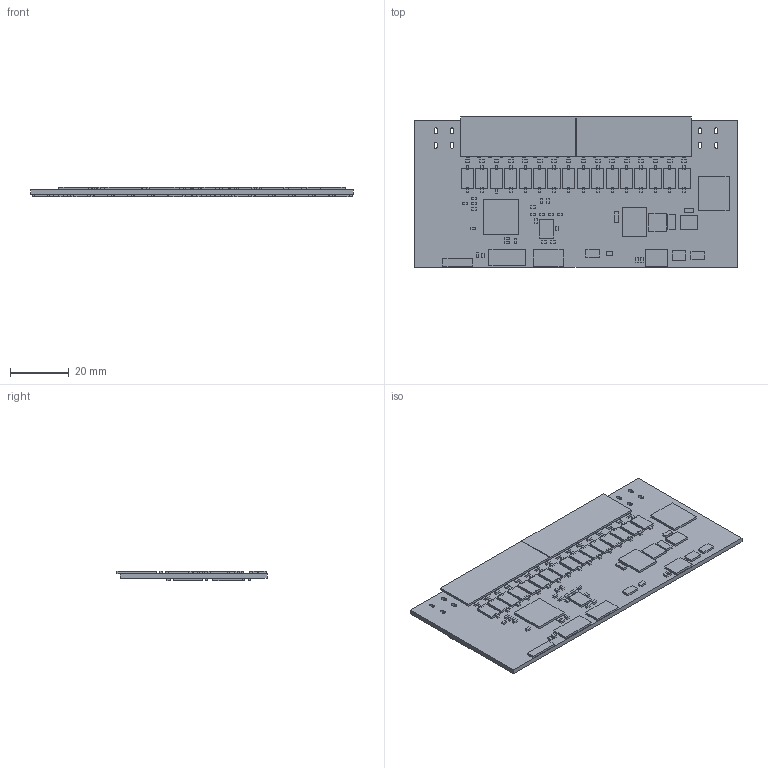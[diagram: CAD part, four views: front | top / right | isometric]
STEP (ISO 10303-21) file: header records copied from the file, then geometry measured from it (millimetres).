
FILE_DESCRIPTION(('Designed by EasyEDA Pro'),'2;1');
FILE_NAME('Open CASCADE Shape Model','2026-09-11T20:01:35',('Author'),( 'Open CASCADE'),'Open CASCADE STEP processor 7.8','Open CASCADE 7.8' ,'Unknown');
FILE_SCHEMA(('AUTOMOTIVE_DESIGN { 1 0 10303 214 1 1 1 1 }'));
Length unit declared in the file: millimetre
Products named in the file (235): EasyEDA PCB Model~jAHL; Board~jAHL; TopCopper~jAHL; BottomCopper~jAHL; TopSilkscreen~jAHL; BottomSilkscreen~jAHL; TopFpcStiffener~jAHL; BottomFpcStiffener~jAHL; CN2~CONN-TH_20P-P3.81_KEFA_KF2EDGKRH-3.81-2X10P~CONN-TH_20P-P3.81_KEFA_KF2EDGKRH-3.81-2X10P~jAHL; CONN-TH_20P-P3.81_KEFA_KF2EDGKRH-3.81-2X10P~CONN-TH_20P-P3.81_KEFA_KF2EDGKRH-3.81-2X10P~jAHL; CN3~CONN-TH_20P-P3.81_KEFA_KF2EDGKRH-3.81-2X10P~CONN-TH_20P-P3.81_KEFA_KF2EDGKRH-3.81-2X10P~jAHL; U1~CONN-TH_4P-P2.50_4PIN~CONN-TH_4P-P2.50_4PIN~jAHL; CONN-TH_4P-P2.50_4PIN~CONN-TH_4P-P2.50_4PIN~jAHL; H1~HDR-TH_4P-P2.54-V-M~HDR-TH_4P-P2.54-M-LI-1X4P~jAHL; HDR-TH_4P-P2.54-V-M~HDR-TH_4P-P2.54-M-LI-1X4P~jAHL; U14~OPTO-SMD-4_L4.4-W4.1-P2.54-LS7.0-TL~OPTO-SMD-4P_L4.1-W4.4-H2.0-LS7.0-P2.54~jAHL; OPTO-SMD-4_L4.4-W4.1-P2.54-LS7.0-TL~OPTO-SMD-4P_L4.1-W4.4-H2.0-LS7.0-P2.54~jAHL; U15~OPTO-SMD-4_L4.4-W4.1-P2.54-LS7.0-TL~OPTO-SMD-4P_L4.1-W4.4-H2.0-LS7.0-P2.54~jAHL; U17~OPTO-SMD-4_L4.4-W4.1-P2.54-LS7.0-TL~OPTO-SMD-4P_L4.1-W4.4-H2.0-LS7.0-P2.54~jAHL; U19~OPTO-SMD-4_L4.4-W4.1-P2.54-LS7.0-TL~OPTO-SMD-4P_L4.1-W4.4-H2.0-LS7.0-P2.54~jAHL; U21~OPTO-SMD-4_L4.4-W4.1-P2.54-LS7.0-TL~OPTO-SMD-4P_L4.1-W4.4-H2.0-LS7.0-P2.54~jAHL; U37~OPTO-SMD-4_L4.4-W4.1-P2.54-LS7.0-TL~OPTO-SMD-4P_L4.1-W4.4-H2.0-LS7.0-P2.54~jAHL; U38~OPTO-SMD-4_L4.4-W4.1-P2.54-LS7.0-TL~OPTO-SMD-4P_L4.1-W4.4-H2.0-LS7.0-P2.54~jAHL; U39~OPTO-SMD-4_L4.4-W4.1-P2.54-LS7.0-TL~OPTO-SMD-4P_L4.1-W4.4-H2.0-LS7.0-P2.54~jAHL; U40~OPTO-SMD-4_L4.4-W4.1-P2.54-LS7.0-TL~OPTO-SMD-4P_L4.1-W4.4-H2.0-LS7.0-P2.54~jAHL; U41~OPTO-SMD-4_L4.4-W4.1-P2.54-LS7.0-TL~OPTO-SMD-4P_L4.1-W4.4-H2.0-LS7.0-P2.54~jAHL; U42~OPTO-SMD-4_L4.4-W4.1-P2.54-LS7.0-TL~OPTO-SMD-4P_L4.1-W4.4-H2.0-LS7.0-P2.54~jAHL; U43~OPTO-SMD-4_L4.4-W4.1-P2.54-LS7.0-TL~OPTO-SMD-4P_L4.1-W4.4-H2.0-LS7.0-P2.54~jAHL; U44~OPTO-SMD-4_L4.4-W4.1-P2.54-LS7.0-TL~OPTO-SMD-4P_L4.1-W4.4-H2.0-LS7.0-P2.54~jAHL; U16~OPTO-SMD-4_L4.4-W4.1-P2.54-LS7.0-TL~OPTO-SMD-4P_L4.1-W4.4-H2.0-LS7.0-P2.54~jAHL; U18~OPTO-SMD-4_L4.4-W4.1-P2.54-LS7.0-TL~OPTO-SMD-4P_L4.1-W4.4-H2.0-LS7.0-P2.54~jAHL; U20~OPTO-SMD-4_L4.4-W4.1-P2.54-LS7.0-TL~OPTO-SMD-4P_L4.1-W4.4-H2.0-LS7.0-P2.54~jAHL; R35~R0603~R0603~jAHL; R0603~R0603~jAHL; R36~R0603~R0603~jAHL; R59~R0603~R0603~jAHL; R60~R0603~R0603~jAHL; R61~R0603~R0603~jAHL; R62~R0603~R0603~jAHL; R38~R0603~R0603~jAHL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
Assembly tree (411 placements, depth 3):
  EasyEDA PCB Model~jAHL
    Board~jAHL
    TopCopper~jAHL
    BottomCopper~jAHL
    TopSilkscreen~jAHL
    BottomSilkscreen~jAHL
    TopFpcStiffener~jAHL
    BottomFpcStiffener~jAHL
    CN2~CONN-TH_20P-P3.81_KEFA_KF2EDGKRH-3.81-2X10P~CONN-TH_20P-P3.81_KEFA_KF2EDGKRH-3.81-2X10P~jAHL
      CONN-TH_20P-P3.81_KEFA_KF2EDGKRH-3.81-2X10P~CONN-TH_20P-P3.81_KEFA_KF2EDGKRH-3.81-2X10P~jAHL
    CN3~CONN-TH_20P-P3.81_KEFA_KF2EDGKRH-3.81-2X10P~CONN-TH_20P-P3.81_KEFA_KF2EDGKRH-3.81-2X10P~jAHL
      CONN-TH_20P-P3.81_KEFA_KF2EDGKRH-3.81-2X10P~CONN-TH_20P-P3.81_KEFA_KF2EDGKRH-3.81-2X10P~jAHL
    U1~CONN-TH_4P-P2.50_4PIN~CONN-TH_4P-P2.50_4PIN~jAHL
      CONN-TH_4P-P2.50_4PIN~CONN-TH_4P-P2.50_4PIN~jAHL
    H1~HDR-TH_4P-P2.54-V-M~HDR-TH_4P-P2.54-M-LI-1X4P~jAHL
      HDR-TH_4P-P2.54-V-M~HDR-TH_4P-P2.54-M-LI-1X4P~jAHL
    U14~OPTO-SMD-4_L4.4-W4.1-P2.54-LS7.0-TL~OPTO-SMD-4P_L4.1-W4.4-H2.0-LS7.0-P2.54~jAHL
      OPTO-SMD-4_L4.4-W4.1-P2.54-LS7.0-TL~OPTO-SMD-4P_L4.1-W4.4-H2.0-LS7.0-P2.54~jAHL
    U15~OPTO-SMD-4_L4.4-W4.1-P2.54-LS7.0-TL~OPTO-SMD-4P_L4.1-W4.4-H2.0-LS7.0-P2.54~jAHL
      OPTO-SMD-4_L4.4-W4.1-P2.54-LS7.0-TL~OPTO-SMD-4P_L4.1-W4.4-H2.0-LS7.0-P2.54~jAHL
    U17~OPTO-SMD-4_L4.4-W4.1-P2.54-LS7.0-TL~OPTO-SMD-4P_L4.1-W4.4-H2.0-LS7.0-P2.54~jAHL
      OPTO-SMD-4_L4.4-W4.1-P2.54-LS7.0-TL~OPTO-SMD-4P_L4.1-W4.4-H2.0-LS7.0-P2.54~jAHL
    U19~OPTO-SMD-4_L4.4-W4.1-P2.54-LS7.0-TL~OPTO-SMD-4P_L4.1-W4.4-H2.0-LS7.0-P2.54~jAHL
      OPTO-SMD-4_L4.4-W4.1-P2.54-LS7.0-TL~OPTO-SMD-4P_L4.1-W4.4-H2.0-LS7.0-P2.54~jAHL
    U21~OPTO-SMD-4_L4.4-W4.1-P2.54-LS7.0-TL~OPTO-SMD-4P_L4.1-W4.4-H2.0-LS7.0-P2.54~jAHL
      OPTO-SMD-4_L4.4-W4.1-P2.54-LS7.0-TL~OPTO-SMD-4P_L4.1-W4.4-H2.0-LS7.0-P2.54~jAHL
    U37~OPTO-SMD-4_L4.4-W4.1-P2.54-LS7.0-TL~OPTO-SMD-4P_L4.1-W4.4-H2.0-LS7.0-P2.54~jAHL
      OPTO-SMD-4_L4.4-W4.1-P2.54-LS7.0-TL~OPTO-SMD-4P_L4.1-W4.4-H2.0-LS7.0-P2.54~jAHL
    U38~OPTO-SMD-4_L4.4-W4.1-P2.54-LS7.0-TL~OPTO-SMD-4P_L4.1-W4.4-H2.0-LS7.0-P2.54~jAHL
      OPTO-SMD-4_L4.4-W4.1-P2.54-LS7.0-TL~OPTO-SMD-4P_L4.1-W4.4-H2.0-LS7.0-P2.54~jAHL
    U39~OPTO-SMD-4_L4.4-W4.1-P2.54-LS7.0-TL~OPTO-SMD-4P_L4.1-W4.4-H2.0-LS7.0-P2.54~jAHL
      OPTO-SMD-4_L4.4-W4.1-P2.54-LS7.0-TL~OPTO-SMD-4P_L4.1-W4.4-H2.0-LS7.0-P2.54~jAHL
    U40~OPTO-SMD-4_L4.4-W4.1-P2.54-LS7.0-TL~OPTO-SMD-4P_L4.1-W4.4-H2.0-LS7.0-P2.54~jAHL
      OPTO-SMD-4_L4.4-W4.1-P2.54-LS7.0-TL~OPTO-SMD-4P_L4.1-W4.4-H2.0-LS7.0-P2.54~jAHL
    U41~OPTO-SMD-4_L4.4-W4.1-P2.54-LS7.0-TL~OPTO-SMD-4P_L4.1-W4.4-H2.0-LS7.0-P2.54~jAHL
      OPTO-SMD-4_L4.4-W4.1-P2.54-LS7.0-TL~OPTO-SMD-4P_L4.1-W4.4-H2.0-LS7.0-P2.54~jAHL
    U42~OPTO-SMD-4_L4.4-W4.1-P2.54-LS7.0-TL~OPTO-SMD-4P_L4.1-W4.4-H2.0-LS7.0-P2.54~jAHL
      OPTO-SMD-4_L4.4-W4.1-P2.54-LS7.0-TL~OPTO-SMD-4P_L4.1-W4.4-H2.0-LS7.0-P2.54~jAHL
    U43~OPTO-SMD-4_L4.4-W4.1-P2.54-LS7.0-TL~OPTO-SMD-4P_L4.1-W4.4-H2.0-LS7.0-P2.54~jAHL
      OPTO-SMD-4_L4.4-W4.1-P2.54-LS7.0-TL~OPTO-SMD-4P_L4.1-W4.4-H2.0-LS7.0-P2.54~jAHL
    U44~OPTO-SMD-4_L4.4-W4.1-P2.54-LS7.0-TL~OPTO-SMD-4P_L4.1-W4.4-H2.0-LS7.0-P2.54~jAHL
      OPTO-SMD-4_L4.4-W4.1-P2.54-LS7.0-TL~OPTO-SMD-4P_L4.1-W4.4-H2.0-LS7.0-P2.54~jAHL
    U16~OPTO-SMD-4_L4.4-W4.1-P2.54-LS7.0-TL~OPTO-SMD-4P_L4.1-W4.4-H2.0-LS7.0-P2.54~jAHL
      OPTO-SMD-4_L4.4-W4.1-P2.54-LS7.0-TL~OPTO-SMD-4P_L4.1-W4.4-H2.0-LS7.0-P2.54~jAHL
    U18~OPTO-SMD-4_L4.4-W4.1-P2.54-LS7.0-TL~OPTO-SMD-4P_L4.1-W4.4-H2.0-LS7.0-P2.54~jAHL
      OPTO-SMD-4_L4.4-W4.1-P2.54-LS7.0-TL~OPTO-SMD-4P_L4.1-W4.4-H2.0-LS7.0-P2.54~jAHL
    U20~OPTO-SMD-4_L4.4-W4.1-P2.54-LS7.0-TL~OPTO-SMD-4P_L4.1-W4.4-H2.0-LS7.0-P2.54~jAHL
      OPTO-SMD-4_L4.4-W4.1-P2.54-LS7.0-TL~OPTO-SMD-4P_L4.1-W4.4-H2.0-LS7.0-P2.54~jAHL
    R35~R0603~R0603~jAHL
      R0603~R0603~jAHL
    R36~R0603~R0603~jAHL
      R0603~R0603~jAHL
    R59~R0603~R0603~jAHL
      R0603~R0603~jAHL
    R60~R0603~R0603~jAHL
      R0603~R0603~jAHL
    R61~R0603~R0603~jAHL
      R0603~R0603~jAHL
    R62~R0603~R0603~jAHL
      R0603~R0603~jAHL
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Bounding box: 109.97 x 51.1 x 3.12 mm (x, y, z)
Volume: 11882.1 mm3; surface area: 22264 mm2
Topology: 203 solids, 203 shells, 1360 faces, 2862 edges, 1908 vertices
Faces by surface type: bspline 1212, cylinder 122, plane 26
Entity records: 15452 total; most frequent: CARTESIAN_POINT 2690, DIRECTION 1802, ORIENTED_EDGE 1476, AXIS2_PLACEMENT_3D 804, EDGE_CURVE 738, PRODUCT_DEFINITION_SHAPE 646, VERTEX_POINT 492, FACE_BOUND 420
